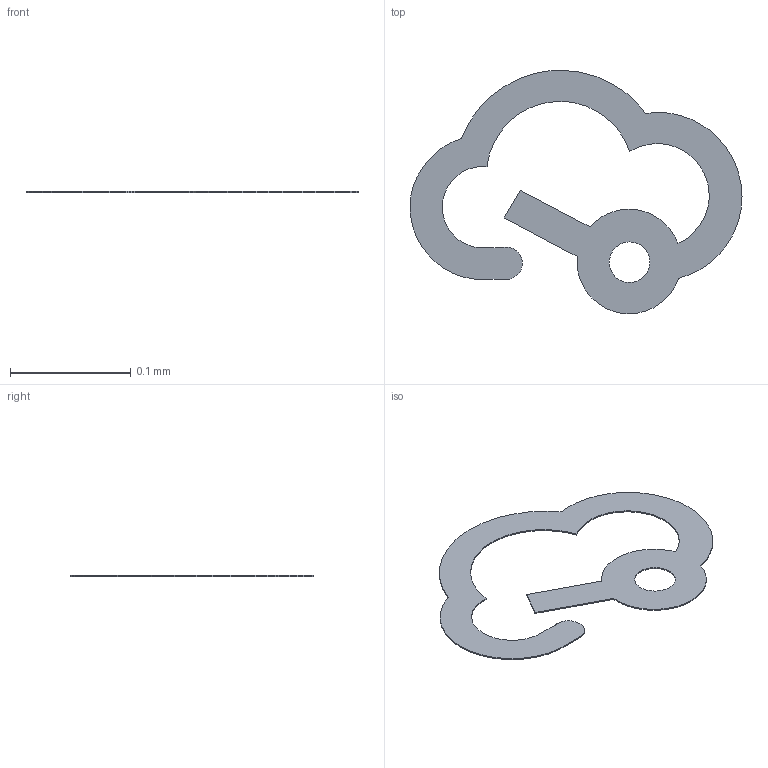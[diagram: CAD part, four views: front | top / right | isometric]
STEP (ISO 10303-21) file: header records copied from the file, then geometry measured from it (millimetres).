
FILE_DESCRIPTION(/* description */ ('STEP AP242 Edition 2','CAx-IF Rec.Pracs.---Representation and Presentation of Product Manufacturing Information (PMI)---4.0---2014-10-13','CAx-IF Rec.Pracs.---3D Tessellated Geometry---0.4---2014-09-14','2;1','CAx-IF Rec.Pracs.---User Defined Attributes---1.5---2016-08-15'),/* implementation_level */ '2;1');
FILE_NAME(/* name */ 'Assembly 1 - SOT-23-6_L2.9-W1.6-P0.95-LS2.8-BL~SOT-23-6_L2.9-W1.6-H1.5-LS2.8-P0.95~nxQB (1)',/* time_stamp */ '2026-04-02T09:55:24Z',/* author */ (''),/* organization */ (''),/* preprocessor_version */ 'ST-DEVELOPER v20',/* originating_system */ 'ONSHAPE BY PTC INC, 1.212',/* authorisation */ ' ');
FILE_SCHEMA (('AP242_MANAGED_MODEL_BASED_3D_ENGINEERING_MIM_LF { 1 0 10303 442 3 1 4 }'));
Length unit declared in the file: metre
Products named in the file (1): SOT-23-6_L2.9-W1.6-P0.95-LS2.8-BL~SOT-23-6_L2.9-W1.6-H1.5-LS2.8-P0.95
~nxQB
Bounding box: 0.27 x 0.2 x 0 mm (x, y, z)
Volume: 0 mm3; surface area: 0 mm2
Topology: 1 solids, 1 shells, 37 faces, 105 edges, 70 vertices
Faces by surface type: bspline 27, plane 9, cylinder 1
Entity records: 1649 total; most frequent: CARTESIAN_POINT 554, ORIENTED_EDGE 210, EDGE_CURVE 105, DIRECTION 95, VERTEX_POINT 70, LINE 49, VECTOR 49, B_SPLINE_CURVE_WITH_KNOTS 44
